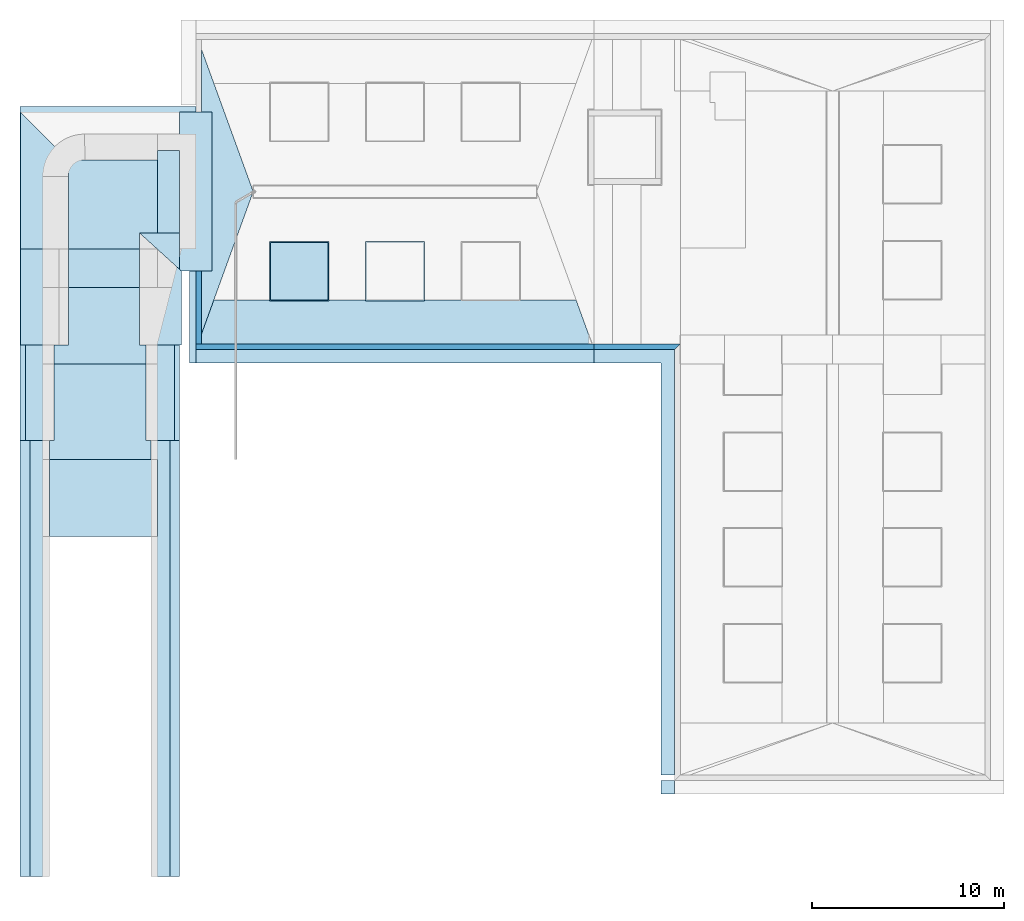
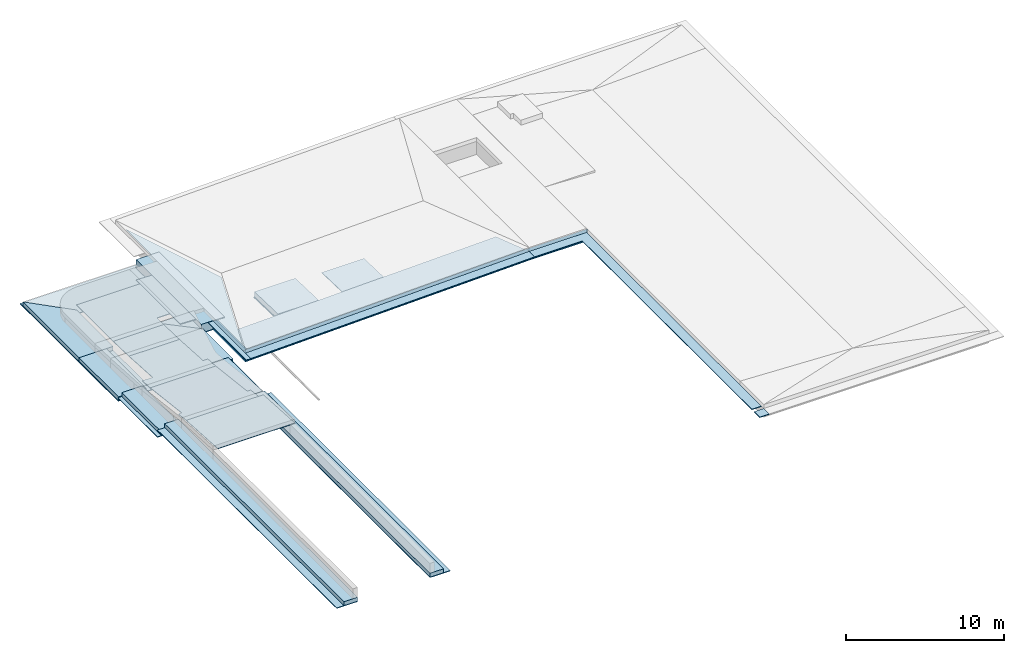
# One storey, part 1 of 8: 31 footings.
"""IFC4 building model written with IfcOpenShell, lengths in millimetres."""

import ifcopenshell
import ifcopenshell.guid

model = None  # the IFC model being written
_history = None  # IfcOwnerHistory: only IFC2X3 demands one
_inside = {}  # id of a spatial element -> (the spatial element, [elements in it])
_under = {}  # id of a project, library or spatial element -> (it, [spatial elements below it])
_declared = {}  # id of a project -> (the project, [libraries it declares])
_typed = {}  # id of a type object -> (the type object, [elements of that type])
_made_of = {}  # id of a material, layer set ... -> (it, [elements and type objects made of it])


def new_model(schema):
    """Start an empty IFC model of exactly this schema.

    Asked for "IFC4X3", IfcOpenShell would pick the latest addendum, in which some entities
    have other attributes; the version numbers below select the first issue.
    IFC2X3 requires an IfcOwnerHistory on every rooted entity: one is made here for all.
    """
    global model, _history
    if schema == "IFC4X3":
        model = ifcopenshell.file(schema_version=(4, 3, 0, 0))
    else:
        model = ifcopenshell.file(schema=schema)
    _inside.clear()
    _under.clear()
    _declared.clear()
    _typed.clear()
    _made_of.clear()
    _history = None
    if model.schema == "IFC2X3":
        org = make("IfcOrganization", Name="unknown")
        user = make(
            "IfcPersonAndOrganization",
            ThePerson=make("IfcPerson", FamilyName="unknown"),
            TheOrganization=org,
        )
        app = make(
            "IfcApplication",
            ApplicationDeveloper=org,
            Version="unknown",
            ApplicationFullName="unknown",
            ApplicationIdentifier="unknown",
        )
        _history = make(
            "IfcOwnerHistory",
            OwningUser=user,
            OwningApplication=app,
            ChangeAction="ADDED",
            CreationDate=0,
        )
    return model


def make(cls, **values):
    """One entity of the class cls with the attributes given. An attribute that is None is left unset."""
    return model.create_entity(
        cls, **{name: value for name, value in values.items() if value is not None}
    )


def entity(cls, *values):
    """Any entity or typed value of the class cls, its attributes in the order of the schema. None: left unset."""
    e = model.create_entity(cls)
    for i, value in enumerate(values):
        if value is not None:
            e[i] = value
    return e


def rooted(cls, **values):
    """An entity with a GlobalId (a new one), such as an element, a storey or a relation."""
    return make(cls, GlobalId=ifcopenshell.guid.new(), OwnerHistory=_history, **values)


def si_unit(unit_type, name, prefix=None):
    """IfcSIUnit, for example si_unit("LENGTHUNIT", "METRE", prefix="MILLI")."""
    return make("IfcSIUnit", UnitType=unit_type, Prefix=prefix, Name=name)


def converted_unit(unit_type, name, factor, base, dimensions=None, offset=None):
    """IfcConversionBasedUnit, such as the inch: factor (a typed value) times the base unit."""
    return make(
        "IfcConversionBasedUnit"
        if offset is None
        else "IfcConversionBasedUnitWithOffset",
        ConversionOffset=offset,
        Dimensions=None
        if dimensions is None
        else entity("IfcDimensionalExponents", *dimensions),
        UnitType=unit_type,
        Name=name,
        ConversionFactor=make(
            "IfcMeasureWithUnit", ValueComponent=factor, UnitComponent=base
        ),
    )


def derived_unit(unit_type, elements):
    """IfcDerivedUnit: a product of units, each with its exponent."""
    return make(
        "IfcDerivedUnit",
        Elements=[
            make("IfcDerivedUnitElement", Unit=unit, Exponent=power)
            for unit, power in elements
        ],
        UnitType=unit_type,
    )


def assignment(units):
    """IfcUnitAssignment: the units of a project."""
    return None if units is None else make("IfcUnitAssignment", Units=units)


def point(xyz):
    """IfcCartesianPoint."""
    return None if xyz is None else make("IfcCartesianPoint", Coordinates=xyz)


def direction(xyz):
    """IfcDirection."""
    return None if xyz is None else make("IfcDirection", DirectionRatios=xyz)


def frame(location, z_axis=None, x_axis=None):
    """IfcAxis2Placement3D, a coordinate frame: its origin and axes. An axis left out is left unset."""
    return make(
        "IfcAxis2Placement3D",
        Location=point(location),
        Axis=direction(z_axis),
        RefDirection=direction(x_axis),
    )


def origin_with_axes():
    """The frame at (0, 0, 0) with the z axis (0, 0, 1) and the x axis (1, 0, 0) written out."""
    return frame((0.0, 0.0, 0.0), z_axis=(0.0, 0.0, 1.0), x_axis=(1.0, 0.0, 0.0))


def place(relative_to, where):
    """IfcLocalPlacement: puts the frame where relative to a parent placement (None: the world)."""
    return make(
        "IfcLocalPlacement", PlacementRelTo=relative_to, RelativePlacement=where
    )


def context(
    kind, dimensions, precision=None, world=None, true_north=None, identifier=None
):
    """IfcGeometricRepresentationContext, for example the 3D "Model" context."""
    return make(
        "IfcGeometricRepresentationContext",
        ContextIdentifier=identifier,
        ContextType=kind,
        CoordinateSpaceDimension=dimensions,
        Precision=precision,
        WorldCoordinateSystem=world,
        TrueNorth=true_north,
    )


def subcontext(parent, identifier, kind, view, scale=None):
    """IfcGeometricRepresentationSubContext, for example "Body" below "Model"."""
    return make(
        "IfcGeometricRepresentationSubContext",
        ContextIdentifier=identifier,
        ContextType=kind,
        ParentContext=parent,
        TargetScale=scale,
        TargetView=view,
    )


def project(units=None, contexts=None):
    """IfcProject with its units and contexts."""
    return rooted(
        "IfcProject",
        Name="project",
        RepresentationContexts=contexts,
        UnitsInContext=assignment(units),
    )


def spatial(cls, under=None, at=None, **own):
    """A site, building, storey or space (cls), placed at a placement, below another one or the project."""
    s = rooted(cls, ObjectPlacement=at, **own)
    if under is not None:
        _under.setdefault(under.id(), (under, []))[1].append(s)
    return s


def point_list(points):
    """IfcCartesianPointList2D or 3D."""
    cls = (
        "IfcCartesianPointList2D" if len(points[0]) == 2 else "IfcCartesianPointList3D"
    )
    return make(cls, CoordList=points)


def polygons(points, faces, closed=None, point_numbers=None):
    """IfcPolygonalFaceSet: a face is its outer loop, then its inner loops; points numbered from 1."""
    made = []
    for loops in faces:
        if len(loops) == 1:
            made.append(make("IfcIndexedPolygonalFace", CoordIndex=loops[0]))
        else:
            made.append(
                make(
                    "IfcIndexedPolygonalFaceWithVoids",
                    CoordIndex=loops[0],
                    InnerCoordIndices=loops[1:],
                )
            )
    return make(
        "IfcPolygonalFaceSet",
        Coordinates=point_list(points),
        Closed=closed,
        Faces=made,
        PnIndex=point_numbers,
    )


def shape(context_of_items, identifier, shape_type, items):
    """IfcShapeRepresentation: the items that make up one representation, for example the "Body"."""
    return make(
        "IfcShapeRepresentation",
        ContextOfItems=context_of_items,
        RepresentationIdentifier=identifier,
        RepresentationType=shape_type,
        Items=items,
    )


def material(Name=None, Category=None):
    """IfcMaterial."""
    return make("IfcMaterial", Name=Name, Category=Category)


def made_of(thing, what):
    """Note that an element or type object is made of a material, layer set ...; save() writes the relation."""
    if what is not None:
        _made_of.setdefault(what.id(), (what, []))[1].append(thing)
    return thing


def type_object(cls, material=None, **own):
    """A type object (cls), such as IfcWallType, which elements share."""
    return made_of(rooted(cls, **own), material)


def element(
    cls,
    number,
    at=None,
    inside=None,
    cuts=None,
    type_object=None,
    material=None,
    context=None,
    identifier="Body",
    shape_type=None,
    held_by="IfcProductDefinitionShape",
    body=None,
    shapes=None,
    **own,
):
    """One element of the class cls, such as IfcWall. Its Tag is "e" and its number.

    at: its placement. inside: the storey or other place that contains it. cuts: it is an
    opening in that element (IfcRelVoidsElement). A single representation is given by context,
    identifier, shape_type and body (its items); several are given by shapes. held_by: the class
    of the entity that holds the representations. save() writes the other relations.
    """
    e = rooted(cls, Tag="e%d" % number, ObjectPlacement=at, **own)
    if body is not None:
        shapes = [shape(context, identifier, shape_type, body)]
    if shapes is not None:
        e.Representation = make(held_by, Representations=shapes)
    if inside is not None:
        _inside.setdefault(inside.id(), (inside, []))[1].append(e)
    if cuts is not None:
        rooted(
            "IfcRelVoidsElement", RelatingBuildingElement=cuts, RelatedOpeningElement=e
        )
    if type_object is not None:
        _typed.setdefault(type_object.id(), (type_object, []))[1].append(e)
    return made_of(e, material)


def aggregate(whole, parts):
    """IfcRelAggregates: a whole, such as a stair, and the parts it consists of."""
    return rooted("IfcRelAggregates", RelatingObject=whole, RelatedObjects=parts)


def save(model, path):
    """Write the relations noted so far, then the file.

    IfcRelAggregates (storeys below a building ...), IfcRelContainedInSpatialStructure (elements
    in a storey), IfcRelDefinesByType, IfcRelAssociatesMaterial and IfcRelDeclares: one each for
    every whole, place, type object, material and project.
    """
    for whole, parts in _under.values():
        aggregate(whole, parts)
    for where, things in _inside.values():
        rooted(
            "IfcRelContainedInSpatialStructure",
            RelatedElements=things,
            RelatingStructure=where,
        )
    for kind, things in _typed.values():
        rooted("IfcRelDefinesByType", RelatedObjects=things, RelatingType=kind)
    for what, things in _made_of.values():
        rooted("IfcRelAssociatesMaterial", RelatedObjects=things, RelatingMaterial=what)
    for by, libraries in _declared.values():
        rooted("IfcRelDeclares", RelatingContext=by, RelatedDefinitions=libraries)
    model.write(path)


model = new_model("IFC4")

# Units and contexts
model_context = context("Model", 3, precision=0.01, world=origin_with_axes(), true_north=direction((0.0, 1.0)))
body_context = subcontext(model_context, "Body", "Model", "MODEL_VIEW")
ifc_project = project(units=[si_unit("LENGTHUNIT", "METRE", prefix="MILLI"), si_unit("AREAUNIT", "SQUARE_METRE"), si_unit("VOLUMEUNIT", "CUBIC_METRE"), converted_unit("PLANEANGLEUNIT", "DEGREE", entity("IfcPlaneAngleMeasure", 0.0174532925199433), si_unit("PLANEANGLEUNIT", "RADIAN"), dimensions=[0, 0, 0, 0, 0, 0, 0]), converted_unit("TIMEUNIT", "Year", entity("IfcTimeMeasure", 31557600.0), si_unit("TIMEUNIT", "SECOND"), dimensions=[0, 0, 1, 0, 0, 0, 0]), si_unit("MASSUNIT", "GRAM", prefix="KILO"), si_unit("THERMODYNAMICTEMPERATUREUNIT", "DEGREE_CELSIUS"), si_unit("LUMINOUSINTENSITYUNIT", "LUMEN"), si_unit("ENERGYUNIT", "JOULE", prefix="MEGA"), derived_unit("THERMALCONDUCTANCEUNIT", [(si_unit("POWERUNIT", "WATT"), 1), (si_unit("LENGTHUNIT", "METRE"), -1), (si_unit("THERMODYNAMICTEMPERATUREUNIT", "KELVIN"), -1)]), derived_unit("SPECIFICHEATCAPACITYUNIT", [(si_unit("ENERGYUNIT", "JOULE"), 1), (si_unit("MASSUNIT", "GRAM", prefix="KILO"), -1), (si_unit("THERMODYNAMICTEMPERATUREUNIT", "KELVIN"), -1)]), derived_unit("MASSDENSITYUNIT", [(si_unit("MASSUNIT", "GRAM", prefix="KILO"), 1), (si_unit("VOLUMEUNIT", "CUBIC_METRE"), -1)])], contexts=[model_context])

# Site, building, storey
site_placement = place(None, origin_with_axes())
site = spatial("IfcSite", under=ifc_project, at=site_placement, Name="Gelände", CompositionType="ELEMENT")
building_placement = place(site_placement, origin_with_axes())
building = spatial("IfcBuilding", under=site, at=building_placement, Name="Gebäude", CompositionType="ELEMENT")
storey_placement = place(building_placement, frame((0.0, 0.0, -6000.0), z_axis=(0.0, 0.0, 1.0), x_axis=(1.0, 0.0, 0.0)))
storey = spatial("IfcBuildingStorey", under=building, at=storey_placement, Name="Fundation", CompositionType="ELEMENT", Elevation=-6000.0)

# Footings
ifc_material_1 = material(Name="Magerbeton")
footing_type_1 = type_object("IfcFootingType", Name="Magerbeton 50", PredefinedType="NOTDEFINED")
footing_1_placement = place(storey_placement, frame((14921.30440183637, 25536.3528107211, 2349.956716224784), z_axis=(0.0, 0.0, 1.0), x_axis=(0.7208330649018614, 0.6931087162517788, 0.0)))
element("IfcFooting", 1, at=footing_1_placement, inside=storey, type_object=footing_type_1, material=ifc_material_1, Name="Dach-008", PredefinedType="NOTDEFINED", context=body_context, shape_type="Tessellation", body=[
    polygons([(-18304.13812933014, 14424.97942167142, -550.3028714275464), (-3605.696594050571, 291.8625608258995, 37.89639876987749), (-2619.271355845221, 2518.530149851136, -54.77418930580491), (-16255.46409461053, 15630.25393712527, -600.4646013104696), (-17940.25619673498, 14803.4166315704, -566.0528643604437), (-18304.13812971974, 14424.97942163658, -600.3461550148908), (-3605.696594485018, 291.8625604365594, -12.14688480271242), (-2619.271355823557, 2518.530149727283, -104.8174728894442), (-16255.46409483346, 15630.25393731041, -650.5078849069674), (-17940.25619714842, 14803.41663157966, -616.096147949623)], [[[1, 2, 3, 4, 5]], [[2, 1, 6, 7]], [[3, 2, 7, 8]], [[3, 8, 9, 4]], [[5, 4, 9, 10]], [[1, 5, 10, 6]], [[7, 6, 10, 9, 8]]], closed=True),
])
footing_2_placement = place(storey_placement, frame((-8571.002459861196, 23247.59725747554, 1749.928083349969), z_axis=(0.0, 0.0, 1.0), x_axis=(0.0, 1.0, 0.0)))
element("IfcFooting", 2, at=footing_2_placement, inside=storey, type_object=footing_type_1, material=ifc_material_1, Name="Dach-009", PredefinedType="NOTDEFINED", context=body_context, shape_type="Tessellation", body=[
    polygons([(15375.00026226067, -299.9999046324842, 33.97576905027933), (524.9997377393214, -299.9999046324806, 33.97576905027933), (7950.000000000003, -3000.000000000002, -110.8896105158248), (15375.00026265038, -299.9999042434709, -16.09614739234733), (524.9997377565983, -299.9999042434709, -16.09614739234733), (7950.000000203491, -2999.999999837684, -160.9615269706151)], [[[1, 2, 3]], [[2, 1, 4, 5]], [[3, 2, 5, 6]], [[1, 3, 6, 4]], [[5, 4, 6]]], closed=True),
])
footing_3_placement = place(storey_placement, frame((-8571.012565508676, 22247.5973051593, 1750.001410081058), z_axis=(0.0, 0.0, 1.0), x_axis=(0.0, 1.0, 0.0)))
element("IfcFooting", 3, at=footing_3_placement, inside=storey, type_object=footing_type_1, material=ifc_material_1, Name="Dach-009", PredefinedType="NOTDEFINED", context=body_context, shape_type="Tessellation", body=[
    polygons([(0.0, -20800.01001027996, 649.9985899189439), (700.0000000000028, -20800.01001027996, 649.9985899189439), (700.0000000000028, 0.0, 50.0207966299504), (0.0, 0.0, 50.0207966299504), (-3.895159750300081e-07, -20800.01001066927, 599.9777934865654), (699.9999997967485, -20800.01001066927, 599.9777934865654), (699.9999997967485, -4.444782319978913e-07, 1.99162464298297e-07), (-3.895159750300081e-07, -4.444782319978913e-07, 1.99162464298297e-07)], [[[1, 2, 3, 4]], [[2, 1, 5, 6]], [[3, 2, 6, 7]], [[4, 3, 7, 8]], [[1, 4, 8, 5]], [[6, 5, 8, 7]]], closed=True),
])
footing_4_placement = place(storey_placement, frame((278.9974924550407, 25486.3029208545, 1572.371917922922), z_axis=(0.0, 0.0, 1.0), x_axis=(1.0, 0.0, 0.0)))
element("IfcFooting", 4, at=footing_4_placement, inside=storey, type_object=footing_type_1, material=ifc_material_1, Name="Dach-009", PredefinedType="NOTDEFINED", context=body_context, shape_type="Tessellation", body=[
    polygons([(0.0, 3097.52429106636, -40.86220584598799), (0.0, 0.0, 50.02151737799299), (3100.000000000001, 0.0, 50.02151737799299), (3100.000000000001, 3097.52429106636, -40.86220584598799), (-3.89516419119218e-07, 3097.524290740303, -90.88372302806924), (-3.89516419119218e-07, -3.894200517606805e-07, 1.977706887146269e-07), (3100.000000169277, -3.894200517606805e-07, 1.977706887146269e-07), (3100.000000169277, 3097.524290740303, -90.88372302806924)], [[[1, 2, 3, 4]], [[2, 1, 5, 6]], [[3, 2, 6, 7]], [[4, 3, 7, 8]], [[1, 4, 8, 5]], [[6, 5, 8, 7]]], closed=True),
])
footing_5_placement = place(storey_placement, frame((-4721.002507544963, 25484.90780611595, 1428.139015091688), z_axis=(0.0, 0.0, 1.0), x_axis=(1.0, 0.0, 0.0)))
element("IfcFooting", 5, at=footing_5_placement, inside=storey, type_object=footing_type_1, material=ifc_material_1, Name="Dach-009", PredefinedType="NOTDEFINED", context=body_context, shape_type="Tessellation", body=[
    polygons([(0.0, 3097.524291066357, -40.86220584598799), (0.0, 0.0, 50.02151737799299), (3100.000000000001, 0.0, 50.02151737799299), (3100.000000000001, 3097.524291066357, -40.86220584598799), (-3.895159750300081e-07, 3097.524290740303, -90.88372302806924), (-3.895159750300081e-07, -3.894200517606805e-07, 1.977706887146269e-07), (3100.000000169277, -3.894200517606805e-07, 1.977706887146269e-07), (3100.000000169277, 3097.524290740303, -90.88372302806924)], [[[1, 2, 3, 4]], [[2, 1, 5, 6]], [[3, 2, 6, 7]], [[4, 3, 7, 8]], [[1, 4, 8, 5]], [[6, 5, 8, 7]]], closed=True),
])
footing_6_placement = place(storey_placement, frame((-11171.00255522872, 18197.59725747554, 1349.691429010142), z_axis=(0.0, 0.0, 1.0), x_axis=(1.0, 0.0, 0.0)))
element("IfcFooting", 6, at=footing_6_placement, inside=storey, type_object=footing_type_1, material=ifc_material_1, Name="Deckennr.-072", PredefinedType="NOTDEFINED", context=body_context, shape_type="Tessellation", body=[
    polygons([(1750.000000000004, 0.0, 49.99999999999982), (0.0, 0.0, 49.99999999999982), (0.0, 0.0, 0.0), (1750.000000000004, 0.0, 0.0), (1750.000000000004, 5000.0, 49.99999999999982), (0.0, 5000.0, 49.99999999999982), (0.0, 5000.0, 0.0), (1750.000000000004, 5000.0, 0.0)], [[[1, 2, 3, 4]], [[5, 6, 2, 1]], [[2, 6, 7, 3]], [[8, 4, 3, 7]], [[5, 1, 4, 8]], [[6, 5, 8, 7]]], closed=True),
])
footing_7_placement = place(storey_placement, frame((-17750.93275562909, 23197.59725747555, 1109.999998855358), z_axis=(0.0, 0.0, 1.0), x_axis=(1.0, 0.0, 0.0)))
element("IfcFooting", 7, at=footing_7_placement, inside=storey, type_object=footing_type_1, material=ifc_material_1, Name="Deckennr.-072", PredefinedType="NOTDEFINED", context=body_context, shape_type="Tessellation", body=[
    polygons([(10029.93020040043, 12450.00931519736, 0.0), (9479.930200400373, 12450.00931519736, 0.0), (9479.930200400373, 12450.00931519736, 49.99999999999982), (10029.93020040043, 12450.00931519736, 49.99999999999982), (9179.930200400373, 12150.0, 0.0), (9479.930200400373, 12150.0, 0.0), (10029.93020040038, 3849.999999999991, 0.0), (8429.930200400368, 3850.000000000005, 0.0), (8429.930200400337, 0.0, 0.0), (6229.93020040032, 0.0, 0.0), (6229.930200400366, 5850.000000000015, 0.0), (8329.930200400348, 5849.999999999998, 0.0), (8329.93020040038, 9656.231898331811, 0.0), (2529.930200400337, 9656.231898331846, 0.0), (2529.930200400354, 0.0, 0.0), (0.0, 0.0, 0.0), (0.0, 12450.00931519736, 0.0), (9179.930200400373, 12450.00931519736, 0.0), (9479.930200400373, 12150.0, 49.99999999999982), (9179.930200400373, 12150.0, 49.99999999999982), (9179.930200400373, 12450.00931519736, 49.99999999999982), (0.0, 12450.00931519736, 49.99999999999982), (0.0, 0.0, 49.99999999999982), (2529.930200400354, 0.0, 49.99999999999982), (2529.930200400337, 9656.231898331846, 49.99999999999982), (8329.93020040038, 9656.231898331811, 49.99999999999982), (8329.930200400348, 5849.999999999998, 49.99999999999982), (6229.930200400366, 5850.000000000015, 49.99999999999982), (6229.93020040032, 0.0, 49.99999999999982), (8429.930200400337, 0.0, 49.99999999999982), (8429.930200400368, 3850.000000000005, 49.99999999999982), (10029.93020040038, 3849.999999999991, 49.99999999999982)], [[[1, 2, 3, 4]], [[5, 6, 2, 1, 7, 8, 9, 10, 11, 12, 13, 14, 15, 16, 17, 18]], [[6, 19, 3, 2]], [[19, 20, 21, 22, 23, 24, 25, 26, 27, 28, 29, 30, 31, 32, 4, 3]], [[4, 32, 7, 1]], [[5, 20, 19, 6]], [[32, 31, 8, 7]], [[31, 30, 9, 8]], [[30, 29, 10, 9]], [[29, 28, 11, 10]], [[28, 27, 12, 11]], [[27, 26, 13, 12]], [[26, 25, 14, 13]], [[25, 24, 15, 14]], [[24, 23, 16, 15]], [[23, 22, 17, 16]], [[22, 21, 18, 17]], [[5, 18, 21, 20]]], closed=True),
])
footing_8_placement = place(storey_placement, frame((-17750.93275562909, 18197.59725747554, 1349.691429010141), z_axis=(0.0, 0.0, 1.0), x_axis=(1.0, 0.0, 0.0)))
element("IfcFooting", 8, at=footing_8_placement, inside=storey, type_object=footing_type_1, material=ifc_material_1, Name="Deckennr.-072", PredefinedType="NOTDEFINED", context=body_context, shape_type="Tessellation", body=[
    polygons([(1779.930200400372, 0.0, 49.99999999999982), (0.0, 0.0, 49.99999999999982), (0.0, 0.0, 0.0), (1779.930200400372, 0.0, 0.0), (1779.930200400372, 5000.000000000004, 49.99999999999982), (0.0, 5000.000000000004, 49.99999999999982), (0.0, 5000.000000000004, 0.0), (1779.930200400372, 5000.000000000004, 0.0)], [[[1, 2, 3, 4]], [[5, 6, 2, 1]], [[2, 6, 7, 3]], [[8, 4, 3, 7]], [[5, 1, 4, 8]], [[6, 5, 8, 7]]], closed=True),
])
footing_9_placement = place(storey_placement, frame((-16571.00255522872, 13197.59725747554, 2949.691429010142), z_axis=(0.0, 0.0, 1.0), x_axis=(1.0, 0.0, 0.0)))
element("IfcFooting", 9, at=footing_9_placement, inside=storey, type_object=footing_type_1, material=ifc_material_1, Name="Dach-008", PredefinedType="NOTDEFINED", context=body_context, shape_type="Tessellation", body=[
    polygons([(6000.0, 4000.0, -189.9999999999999), (349.9999999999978, 4000.0, -189.9999999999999), (349.9999999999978, 0.0, 49.99999999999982), (5999.999999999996, 0.0, 49.99999999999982), (5999.999999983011, 3999.999999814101, -240.0000003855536), (349.9999996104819, 3999.999999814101, -240.0000003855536), (349.9999996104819, -3.887539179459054e-07, -3.733826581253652e-07), (5999.999999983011, -3.887539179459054e-07, -3.733826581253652e-07)], [[[1, 2, 3, 4]], [[2, 1, 5, 6]], [[3, 2, 6, 7]], [[4, 3, 7, 8]], [[1, 4, 8, 5]], [[6, 5, 8, 7]]], closed=True),
])
footing_10_placement = place(storey_placement, frame((-16571.00255522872, 22197.59725747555, 2109.691429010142), z_axis=(0.0, 0.0, 1.0), x_axis=(1.0, 0.0, 0.0)))
element("IfcFooting", 10, at=footing_10_placement, inside=storey, type_object=footing_type_1, material=ifc_material_1, Name="Dach-008", PredefinedType="NOTDEFINED", context=body_context, shape_type="Tessellation", body=[
    polygons([(349.9999999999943, -5000.0, 649.9999999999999), (5649.99999999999, -5000.0, 649.9999999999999), (5649.999999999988, -4000.0, 529.9999999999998), (5399.999999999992, -4000.0, 529.9999999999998), (5399.999999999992, 0.0, 49.99999999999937), (599.9999999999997, 0.0, 49.99999999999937), (599.9999999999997, -4000.0, 529.9999999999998), (349.9999999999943, -3999.999999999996, 529.9999999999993), (349.9999996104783, -5000.000000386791, 600.0000004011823), (5650.000000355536, -5000.000000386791, 600.0000004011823), (5650.000000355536, -3999.999999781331, 480.000000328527), (5400.000000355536, -3999.999999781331, 480.000000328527), (5400.000000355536, -1.335500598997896e-07, 3.707936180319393e-07), (599.9999996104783, -1.335500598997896e-07, 3.707936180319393e-07), (599.9999996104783, -3999.999999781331, 480.000000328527), (349.9999996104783, -3999.999999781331, 480.000000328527)], [[[1, 2, 3, 4, 5, 6, 7, 8]], [[2, 1, 9, 10]], [[3, 2, 10, 11]], [[4, 3, 11, 12]], [[5, 4, 12, 13]], [[6, 5, 13, 14]], [[7, 6, 14, 15]], [[8, 7, 15, 16]], [[1, 8, 16, 9]], [[10, 9, 16, 15, 14, 13, 12, 11]]], closed=True),
])
footing_11_placement = place(storey_placement, frame((-15721.00255522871, 22197.59725747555, 2109.691429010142), z_axis=(0.0, 0.0, 1.0), x_axis=(1.0, 0.0, 0.0)))
element("IfcFooting", 11, at=footing_11_placement, inside=storey, type_object=footing_type_1, material=ifc_material_1, Name="Dach-008", PredefinedType="NOTDEFINED", context=body_context, shape_type="Tessellation", body=[
    polygons([(-250.0000000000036, 1000.0, -10.00000000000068), (-250.0000000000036, 0.0, 49.99999999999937), (4549.999999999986, 0.0, 49.99999999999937), (4549.99999999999, 999.9999999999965, -10.00000000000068), (4199.999999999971, 999.9999999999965, -10.00000000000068), (4199.999999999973, 4000.0, -190.0000000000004), (500.0003661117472, 4000.0, -190.0000000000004), (500.0003661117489, 1000.0, -10.00000000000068), (-250.0000003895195, 999.9999996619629, -60.00000037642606), (-250.0000003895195, -3.887485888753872e-07, -3.73383102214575e-07), (4550.000000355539, -3.887485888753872e-07, -3.73383102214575e-07), (4550.000000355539, 999.9999996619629, -60.00000037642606), (4199.999999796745, 999.9999996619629, -60.00000037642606), (4199.999999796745, 3999.999999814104, -240.000000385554), (500.0003665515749, 3999.999999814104, -240.000000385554), (500.0003665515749, 999.9999996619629, -60.00000037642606)], [[[1, 2, 3, 4, 5, 6, 7, 8]], [[2, 1, 9, 10]], [[3, 2, 10, 11]], [[4, 3, 11, 12]], [[5, 4, 12, 13]], [[6, 5, 13, 14]], [[7, 6, 14, 15]], [[8, 7, 15, 16]], [[1, 8, 16, 9]], [[10, 9, 16, 15, 14, 13, 12, 11]]], closed=True),
])
footing_12_placement = place(storey_placement, frame((-15721.00255522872, 26197.59725747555, 1869.999998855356), z_axis=(0.0, 0.0, 1.0), x_axis=(1.0, 0.0, 0.0)))
element("IfcFooting", 12, at=footing_12_placement, inside=storey, type_object=footing_type_1, material=ifc_material_1, Name="Dach-008", PredefinedType="NOTDEFINED", context=body_context, shape_type="Tessellation", body=[
    polygons([(500.0003661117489, 2000.000000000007, -9.999999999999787), (500.0003661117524, 0.0, 49.99999999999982), (4199.999999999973, 0.0, 49.99999999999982), (4199.999999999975, 2000.000000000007, -9.999999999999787), (500.0003657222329, 2000.000000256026, -59.9999997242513), (500.0003657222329, -3.893987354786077e-07, 2.951114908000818e-07), (4199.999999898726, -3.893987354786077e-07, 2.951114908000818e-07), (4199.999999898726, 2000.000000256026, -59.9999997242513)], [[[1, 2, 3, 4]], [[2, 1, 5, 6]], [[3, 2, 6, 7]], [[4, 3, 7, 8]], [[1, 4, 8, 5]], [[6, 5, 8, 7]]], closed=True),
])
footing_13_placement = place(storey_placement, frame((-8571.002555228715, 33197.59725747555, 1749.999998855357), z_axis=(0.0, 0.0, 1.0), x_axis=(0.0, -1.0, 0.0)))
element("IfcFooting", 13, at=footing_13_placement, inside=storey, type_object=footing_type_1, material=ifc_material_1, Name="Dach-008", PredefinedType="NOTDEFINED", context=body_context, shape_type="Tessellation", body=[
    polygons([(-149.9999999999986, -2000.0, 110.0000000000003), (5458.140049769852, -2000.000000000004, 110.0000000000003), (5458.140049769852, -850.0000000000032, 75.4999999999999), (-149.9999999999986, -850.0000000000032, 75.4999999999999), (-150.0000003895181, -2000.000000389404, 60.0000002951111), (5458.140050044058, -2000.000000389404, 60.0000002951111), (5458.140050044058, -850.0000004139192, 25.50000029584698), (-150.0000003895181, -850.0000004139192, 25.50000029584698)], [[[1, 2, 3, 4]], [[2, 1, 5, 6]], [[3, 2, 6, 7]], [[4, 3, 7, 8]], [[1, 4, 8, 5]], [[6, 5, 8, 7]]], closed=True),
])
footing_14_placement = place(storey_placement, frame((-10921.00255522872, -4552.402718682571, 1885.066665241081), z_axis=(0.0, 0.0, 1.0), x_axis=(1.0, 0.0, 0.0)))
element("IfcFooting", 14, at=footing_14_placement, inside=storey, type_object=footing_type_1, material=ifc_material_1, Name="Deckennr.-073", PredefinedType="NOTDEFINED", context=body_context, shape_type="Tessellation", body=[
    polygons([(1500.000000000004, 0.0, 49.99999999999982), (0.0, 0.0, 49.99999999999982), (0.0, 0.0, 0.0), (1500.000000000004, 0.0, 0.0), (1500.000000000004, 22749.99997615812, 49.99999999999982), (0.0, 22749.99997615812, 49.99999999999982), (0.0, 22749.99997615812, 0.0), (1500.000000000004, 22749.99997615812, 0.0)], [[[1, 2, 3, 4]], [[5, 6, 2, 1]], [[2, 6, 7, 3]], [[8, 4, 3, 7]], [[5, 1, 4, 8]], [[6, 5, 8, 7]]], closed=True),
])
footing_15_placement = place(storey_placement, frame((-17750.93275563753, -4552.402718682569, 1885.066665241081), z_axis=(0.0, 0.0, 1.0), x_axis=(1.0, 0.0, 0.0)))
element("IfcFooting", 15, at=footing_15_placement, inside=storey, type_object=footing_type_1, material=ifc_material_1, Name="Deckennr.-071", PredefinedType="NOTDEFINED", context=body_context, shape_type="Tessellation", body=[
    polygons([(0.0, 0.0, 31.34435819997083), (30.63727928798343, 0.0, 0.7070789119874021), (29.93020038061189, 0.0, 4.616751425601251e-09), (1529.930200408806, 0.0, 0.0), (1529.930200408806, 0.0, 49.99999999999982), (0.0, 0.0, 49.99999999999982), (30.63727929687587, 5594.82570879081, 0.7070789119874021), (0.0, 5594.825708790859, 31.34435820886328), (29.93020038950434, 5594.825708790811, 4.616751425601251e-09), (1529.930200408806, 22749.99997615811, 0.0), (0.0, 0.0, 0.0), (0.0, 22749.99997615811, 0.0), (1529.930200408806, 22749.99997615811, 49.99999999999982), (0.0, 22749.99997615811, 49.99999999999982), (0.0, 5594.825708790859, 29.93020039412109), (0.0, 0.0, 29.93020038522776)], [[[1, 2, 3, 4, 5, 6]], [[7, 2, 1, 8]], [[9, 3, 2, 7]], [[10, 4, 3, 11, 12]], [[13, 5, 4, 10]], [[13, 14, 6, 5]], [[15, 8, 1, 6, 14, 12, 11, 16]], [[7, 8, 15, 9]], [[15, 16, 3, 9]], [[11, 3, 16]], [[14, 13, 10, 12]]], closed=True),
])
footing_type_2 = type_object("IfcFootingType", Name="Magerbeton 50", PredefinedType="NOTDEFINED")
footing_16_placement = place(storey_placement, frame((15728.99744475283, -252.4045176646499, 2400.0), z_axis=(0.0, 0.0, 1.0), x_axis=(1.0, 0.0, 0.0)))
element("IfcFooting", 16, at=footing_16_placement, inside=storey, type_object=footing_type_2, material=ifc_material_1, Name="Deckennr.-072", PredefinedType="NOTDEFINED", context=body_context, shape_type="Tessellation", body=[
    polygons([(699.9995675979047, 700.001797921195, 0.0), (699.9995675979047, 700.0017977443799, -50.00000000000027), (5.773159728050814e-10, 699.9965566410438, -49.99999999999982), (5.773159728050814e-10, 699.9965567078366, 0.0), (699.9999999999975, -5.712652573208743e-10, -49.99999999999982), (699.9999999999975, -5.712652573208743e-10, 0.0), (0.0, 0.0, -49.99999999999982), (0.0, 0.0, 0.0)], [[[1, 2, 3, 4]], [[5, 2, 1, 6]], [[2, 5, 7, 3]], [[3, 7, 8, 4]], [[6, 1, 4, 8]], [[8, 7, 5, 6]]], closed=True),
    polygons([(-3499.999999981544, 22500.0018228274, 0.0), (-3499.999999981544, 22500.0018228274, -49.99999999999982), (1.84634529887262e-08, 22500.00182282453, -49.99999999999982), (1.84634529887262e-08, 22500.00182282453, 0.0), (-3499.99999998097, 23200.00182282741, 0.0), (-3499.99999998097, 23200.00182282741, -49.99999999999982), (8.206768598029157e-10, 999.9965577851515, -49.99999999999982), (700.0000000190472, 23200.00182282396, -49.99999999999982), (699.9993096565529, 1000.001796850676, -50.00000000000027), (8.206768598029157e-10, 999.9965577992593, 0.0), (700.0000000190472, 23200.00182282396, 0.0), (699.9993096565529, 1000.001796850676, 0.0)], [[[1, 2, 3, 4]], [[5, 6, 2, 1]], [[7, 3, 2, 6, 8, 9]], [[7, 10, 4, 3]], [[11, 5, 1, 4, 10, 12]], [[8, 6, 5, 11]], [[11, 12, 9, 8]], [[10, 7, 9, 12]]], closed=True),
])
footing_17_placement = place(storey_placement, frame((-8908.801697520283, 22247.59725747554, 1800.0), z_axis=(0.0, 0.0, 1.0), x_axis=(1.0, 0.0, 0.0)))
element("IfcFooting", 17, at=footing_17_placement, inside=storey, type_object=footing_type_2, material=ifc_material_1, Name="Deckennr.-072", PredefinedType="NOTDEFINED", context=body_context, shape_type="Tessellation", body=[
    polygons([(337.7991422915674, 0.0, 0.0), (0.0, 0.0, 0.0), (0.0, 0.0, -49.99999999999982), (337.7991422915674, 0.0, -49.99999999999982), (337.7991422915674, 4800.000000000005, 0.0), (0.0, 4800.000000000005, 0.0), (0.0, 4800.000000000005, -49.99999999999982), (337.7991422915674, 4800.000000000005, -49.99999999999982)], [[[1, 2, 3, 4]], [[5, 6, 2, 1]], [[2, 6, 7, 3]], [[8, 4, 3, 7]], [[5, 1, 4, 8]], [[6, 5, 8, 7]]], closed=True),
])
footing_18_placement = place(storey_placement, frame((-15221.00218911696, 28197.59725747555, 1859.999998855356), z_axis=(0.0, 0.0, 1.0), x_axis=(1.0, 0.0, 0.0)))
element("IfcFooting", 18, at=footing_18_placement, inside=storey, type_object=footing_type_2, material=ifc_material_1, Name="Deckennr.-068", PredefinedType="NOTDEFINED", context=body_context, shape_type="Tessellation", body=[
    polygons([(0.0, 0.0, 0.0), (0.0, 0.0, -49.99999999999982), (3699.999633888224, 0.0, -49.99999999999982), (3699.999633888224, 0.0, 0.0), (0.0, 4656.231898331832, 0.0), (0.0, 4656.231898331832, -49.99999999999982), (4649.999633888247, 4656.231898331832, -49.99999999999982), (4649.999633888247, 850.0000000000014, -49.99999999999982), (3699.999633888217, 849.9999999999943, -49.99999999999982), (3699.999633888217, 849.9999999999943, 0.0), (4649.999633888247, 850.0000000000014, 0.0), (4649.999633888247, 4656.231898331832, 0.0)], [[[1, 2, 3, 4]], [[5, 6, 2, 1]], [[3, 2, 6, 7, 8, 9]], [[4, 3, 9, 10]], [[5, 1, 4, 10, 11, 12]], [[12, 7, 6, 5]], [[11, 8, 7, 12]], [[10, 9, 8, 11]]], closed=True),
])
ifc_material_2 = material(Name="Beton bewehrt")
footing_type_3 = type_object("IfcFootingType", Name="Beton bewehrt 300 x 700", PredefinedType="NOTDEFINED")
footing_19_placement = place(storey_placement, frame((12228.99734595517, 22947.59725747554, 2400.00342517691), z_axis=(0.0, 0.0, 1.0), x_axis=(0.0, 1.0, 0.0)))
element("IfcFooting", 19, at=footing_19_placement, inside=storey, type_object=footing_type_3, material=ifc_material_2, Name="Unterzug-026", PredefinedType="NOTDEFINED", context=body_context, shape_type="Tessellation", body=[
    polygons([(300.0000000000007, 0.1187239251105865, -0.003425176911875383), (300.0000000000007, 20799.99990118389, -600.0785381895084), (0.0, 20799.99990118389, -600.0785381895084), (0.0, 0.1187239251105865, -0.003425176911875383), (300.0000000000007, -9.976651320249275, -700.0034251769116), (300.0000000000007, 20799.99990118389, -1300.369789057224), (0.0, 20799.99990118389, -1300.369789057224), (0.0, -9.976651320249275, -700.0034251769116)], [[[1, 2, 3, 4]], [[5, 6, 2, 1]], [[3, 2, 6, 7]], [[4, 3, 7, 8]], [[5, 1, 4, 8]], [[8, 7, 6, 5]]], closed=True),
])
footing_20_placement = place(storey_placement, frame((-8571.002555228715, 27047.59725747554, 1800.0), z_axis=(0.0, 0.0, 1.0), x_axis=(-1.0, 0.0, 0.0)))
element("IfcFooting", 20, at=footing_20_placement, inside=storey, type_object=footing_type_3, material=ifc_material_2, Name="Unterzug-026", PredefinedType="NOTDEFINED", context=body_context, shape_type="Tessellation", body=[
    polygons([(-300.0000000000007, 0.0, -700.0000000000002), (-300.0000000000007, 3800.000000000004, -700.0000000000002), (0.0, 3800.000000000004, -700.0000000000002), (0.0, 0.0, -700.0000000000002), (-300.0000000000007, 0.0, 0.0), (-300.0000000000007, 3800.000000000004, 0.0), (0.0, 3800.000000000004, 0.0), (0.0, 0.0, 0.0)], [[[1, 2, 3, 4]], [[5, 6, 2, 1]], [[3, 2, 6, 7]], [[4, 3, 7, 8]], [[5, 1, 4, 8]], [[8, 7, 6, 5]]], closed=True),
])
footing_21_placement = place(storey_placement, frame((16428.9974447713, 22947.5973051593, 2399.999999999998), z_axis=(0.0, 0.0, 1.0), x_axis=(0.0, 1.0, 0.0)))
element("IfcFooting", 21, at=footing_21_placement, inside=storey, type_object=footing_type_3, material=ifc_material_2, Name="Unterzug-026", PredefinedType="NOTDEFINED", context=body_context, shape_type="Tessellation", body=[
    polygons([(300.0000000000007, -300.0000000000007, 0.0), (300.0000000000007, 4200.118822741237, 0.0), (0.0, 4200.118822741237, 0.0), (0.0, 0.0, 0.0), (300.0000000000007, -300.0000000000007, -699.9999999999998), (300.0000000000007, 4190.023447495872, -699.9999999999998), (0.0, 4190.02344749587, -699.9999999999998), (0.0, 0.0, -699.9999999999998)], [[[1, 2, 3, 4]], [[5, 6, 2, 1]], [[3, 2, 6, 7]], [[4, 3, 7, 8]], [[5, 1, 4, 8]], [[8, 7, 6, 5]]], closed=True),
])
footing_type_4 = type_object("IfcFootingType", Name="Beton bewehrt 3000 x 3000", PredefinedType="NOTDEFINED")
footing_22_placement = place(storey_placement, frame((-3171.002507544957, 27035.70804276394, 1432.697153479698), z_axis=(0.0, 0.0, 1.0), x_axis=(1.0, 0.0, 0.0)))
element("IfcFooting", 22, at=footing_22_placement, inside=storey, type_object=footing_type_4, material=ifc_material_2, Name="Stütze-015", PredefinedType="NOTDEFINED", context=body_context, shape_type="Tessellation", body=[
    polygons([(1500.000000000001, 1511.087207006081, 356.0240048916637), (1500.000000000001, 1499.355232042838, -43.97599510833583), (-1500.0, 1499.355232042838, -43.97599510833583), (-1500.0, 1511.087207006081, 356.0240048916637), (1500.0, -1487.623257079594, 443.9759951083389), (1500.0, -1499.355232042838, 43.97599510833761), (-1500.0, -1499.355232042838, 43.97599510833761), (-1500.0, -1487.623257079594, 443.9759951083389)], [[[1, 2, 3, 4]], [[5, 6, 2, 1]], [[3, 2, 6, 7]], [[4, 3, 7, 8]], [[5, 1, 4, 8]], [[8, 7, 6, 5]]], closed=True),
])
footing_type_5 = type_object("IfcFootingType", Name="Beton bewehrt 2000 x 300", PredefinedType="NOTDEFINED")
footing_23_placement = place(storey_placement, frame((-10421.00255522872, 28047.59725747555, 1459.999998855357), z_axis=(0.0, 0.0, 1.0), x_axis=(0.0, -1.0, 0.0)))
element("IfcFooting", 23, at=footing_23_placement, inside=storey, type_object=footing_type_5, material=ifc_material_2, Name="Unterzug-025", PredefinedType="NOTDEFINED", context=body_context, shape_type="Tessellation", body=[
    polygons([(-1000.0, 1000.000000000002, -299.9999999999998), (909.09090909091, 1000.000000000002, -299.9999999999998), (-1000.0, -1099.999999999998, -299.9999999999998), (-1000.0, 1000.000000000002, 0.0), (909.09090909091, 1000.000000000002, 0.0), (-1000.0, -1099.999999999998, 0.0)], [[[1, 2, 3]], [[2, 1, 4, 5]], [[2, 5, 6, 3]], [[4, 1, 3, 6]], [[5, 4, 6]]], closed=True),
])
footing_24_placement = place(storey_placement, frame((-16721.00255522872, 28197.59725747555, 1459.999998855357), z_axis=(0.0, 0.0, 1.0), x_axis=(-1.0, 0.0, 0.0)))
element("IfcFooting", 24, at=footing_24_placement, inside=storey, type_object=footing_type_5, material=ifc_material_2, Name="Unterzug-025", PredefinedType="NOTDEFINED", context=body_context, shape_type="Tessellation", body=[
    polygons([(1000.0, 0.0, 0.0), (1000.0, 5000.000000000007, 0.0), (-1000.0, 5000.000000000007, 0.0), (-1000.0, 0.0, 0.0), (1000.0, 0.0, -299.9999999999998), (1000.0, 5000.000000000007, -299.9999999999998), (-1000.0, 5000.000000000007, -299.9999999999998), (-1000.0, 0.0, -299.9999999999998)], [[[1, 2, 3, 4]], [[5, 6, 2, 1]], [[3, 2, 6, 7]], [[4, 3, 7, 8]], [[5, 1, 4, 8]], [[8, 7, 6, 5]]], closed=True),
])
footing_type_6 = type_object("IfcFootingType", Name="Beton bewehrt 2500 x 300", PredefinedType="NOTDEFINED")
footing_25_placement = place(storey_placement, frame((-17721.00255522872, 35347.59725747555, 1459.999998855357), z_axis=(0.0, 0.0, 1.0), x_axis=(-1.0, 0.0, 0.0)))
element("IfcFooting", 25, at=footing_25_placement, inside=storey, type_object=footing_type_6, material=ifc_material_2, Name="Unterzug-025", PredefinedType="NOTDEFINED", context=body_context, shape_type="Tessellation", body=[
    polygons([(0.0, 0.0, 0.0), (0.0, 7149.999999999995, 0.0), (-2500.0, 7149.999999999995, 0.0), (-2500.0, 2500.0, 0.0), (0.0, 0.0, -299.9999999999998), (0.0, 7149.999999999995, -299.9999999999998), (-2500.0, 7149.999999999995, -299.9999999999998), (-2500.0, 2500.0, -299.9999999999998)], [[[1, 2, 3, 4]], [[5, 6, 2, 1]], [[3, 2, 6, 7]], [[4, 3, 7, 8]], [[5, 1, 4, 8]], [[8, 7, 6, 5]]], closed=True),
])
footing_type_7 = type_object("IfcFootingType", Name="Beton bewehrt 1500 x 300", PredefinedType="NOTDEFINED")
for number, where, z_axis, x_axis, name in (
    (26, (-10421.00255522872, 23197.59725747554, 1699.691429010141), (0.0, 0.0, 1.0), (-1.0, 0.0, 0.0), "Unterzug-025"),
    (27, (-16721.00255522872, 23197.59725747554, 1699.691429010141), (0.0, 0.0, 1.0), (-1.0, 0.0, 0.0), "Unterzug-025"),
):
    element("IfcFooting", number, at=place(storey_placement, frame(where, z_axis=z_axis, x_axis=x_axis)), inside=storey, type_object=footing_type_7, material=ifc_material_2, Name=name, PredefinedType="NOTDEFINED", context=body_context, shape_type="Tessellation", body=[
        polygons([(750.0, 0.0, 0.0), (750.0, 5000.0, 0.0), (-750.0, 5000.0, 0.0), (-750.0, 0.0, 0.0), (750.0, 0.0, -299.9999999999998), (750.0, 5000.0, -299.9999999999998), (-750.0, 5000.0, -299.9999999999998), (-750.0, 0.0, -299.9999999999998)], [[[1, 2, 3, 4]], [[5, 6, 2, 1]], [[3, 2, 6, 7]], [[4, 3, 7, 8]], [[5, 1, 4, 8]], [[8, 7, 6, 5]]], closed=True),
    ])
footing_type_8 = type_object("IfcFootingType", Name="Beton bewehrt 2200 x 300", PredefinedType="NOTDEFINED")
footing_26_placement = place(storey_placement, frame((-10421.00255522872, 28047.59725747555, 1459.999998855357), z_axis=(0.0, 0.0, 1.0), x_axis=(-1.0, 0.0, 0.0)))
element("IfcFooting", 28, at=footing_26_placement, inside=storey, type_object=footing_type_8, material=ifc_material_2, Name="Unterzug-025", PredefinedType="NOTDEFINED", context=body_context, shape_type="Tessellation", body=[
    polygons([(1100.0, -1000.000000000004, 0.0), (1100.0, 4850.000000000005, 0.0), (-1100.000000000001, 4850.000000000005, 0.0), (-1100.0, 999.9999999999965, 0.0), (1100.0, -1000.000000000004, -299.9999999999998), (1100.0, 4850.000000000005, -299.9999999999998), (-1100.000000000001, 4850.000000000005, -299.9999999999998), (-1100.0, 999.9999999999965, -299.9999999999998)], [[[1, 2, 3, 4]], [[5, 6, 2, 1]], [[3, 2, 6, 7]], [[4, 3, 7, 8]], [[5, 1, 4, 8]], [[8, 7, 6, 5]]], closed=True),
])
footing_type_9 = type_object("IfcFootingType", Name="Beton bewehrt 1700 x 663", PredefinedType="NOTDEFINED")
footing_27_placement = place(storey_placement, frame((-8571.002555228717, 27047.59725747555, 1825.499998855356), z_axis=(0.0, 0.0, 1.0), x_axis=(1.0, 0.0, 0.0)))
element("IfcFooting", 29, at=footing_27_placement, inside=storey, type_object=footing_type_9, material=ifc_material_2, Name="Unterzug-024", PredefinedType="NOTDEFINED", context=body_context, shape_type="Tessellation", body=[
    polygons([(-849.9999999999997, 0.0, -365.499999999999), (-750.0000000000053, 0.0, -365.499999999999), (-750.0000000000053, 0.0, -662.5282146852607), (849.9999999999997, 0.0, -662.5282146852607), (849.9999999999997, 0.0, 0.0), (-849.9999999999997, 0.0, 0.0), (-849.9999999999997, 90.90909090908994, -365.499999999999), (-849.9999999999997, 90.90909090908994, -662.5282146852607), (-849.9999999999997, 8300.000000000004, -662.5282146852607), (849.9999999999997, 8300.000000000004, -662.5282146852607), (849.9999999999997, 8300.000000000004, 0.0), (-849.9999999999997, 8300.000000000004, 0.0)], [[[1, 2, 3, 4, 5, 6]], [[7, 2, 1]], [[7, 8, 3, 2]], [[4, 3, 8, 9, 10]], [[11, 5, 4, 10]], [[12, 6, 5, 11]], [[8, 7, 1, 6, 12, 9]], [[10, 9, 12, 11]]], closed=True),
])
footing_type_10 = type_object("IfcFootingType", Name="Beton bewehrt 1000 x 300", PredefinedType="NOTDEFINED")
footing_28_placement = place(storey_placement, frame((-10421.00255522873, 18197.59725747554, 2235.06666524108), z_axis=(0.0, 0.0, 1.0), x_axis=(-1.0, 0.0, 0.0)))
element("IfcFooting", 30, at=footing_28_placement, inside=storey, type_object=footing_type_10, material=ifc_material_2, Name="Unterzug-025", PredefinedType="NOTDEFINED", context=body_context, shape_type="Tessellation", body=[
    polygons([(500.0, 0.0, 0.0), (500.0, 22749.99997615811, 0.0), (-500.0, 22749.99997615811, 0.0), (-500.0, 0.0, 0.0), (500.0, 0.0, -300.0000000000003), (500.0, 22749.99997615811, -300.0000000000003), (-500.0, 22749.99997615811, -300.0000000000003), (-500.0, 0.0, -300.0000000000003)], [[[1, 2, 3, 4]], [[5, 6, 2, 1]], [[3, 2, 6, 7]], [[4, 3, 7, 8]], [[5, 1, 4, 8]], [[8, 7, 6, 5]]], closed=True),
])
footing_29_placement = place(storey_placement, frame((-16721.00255522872, 18197.59725747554, 2235.06666524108), z_axis=(0.0, 0.0, 1.0), x_axis=(-1.0, 0.0, 0.0)))
element("IfcFooting", 31, at=footing_29_placement, inside=storey, type_object=footing_type_10, material=ifc_material_2, Name="Unterzug-025", PredefinedType="NOTDEFINED", context=body_context, shape_type="Tessellation", body=[
    polygons([(500.0, 0.0, 0.0), (500.0, 22749.99997615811, 0.0), (-500.0, 22749.99997615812, 0.0), (-500.0, 0.0, 0.0), (500.0, 0.0, -300.0000000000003), (500.0, 22749.99997615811, -300.0000000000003), (-500.0, 22749.99997615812, -300.0000000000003), (-500.0, 0.0, -300.0000000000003)], [[[1, 2, 3, 4]], [[5, 6, 2, 1]], [[3, 2, 6, 7]], [[4, 3, 7, 8]], [[5, 1, 4, 8]], [[8, 7, 6, 5]]], closed=True),
])

save(model, "model.ifc")
